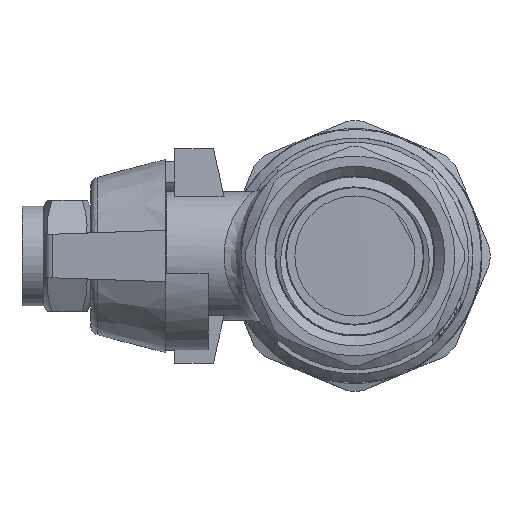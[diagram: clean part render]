
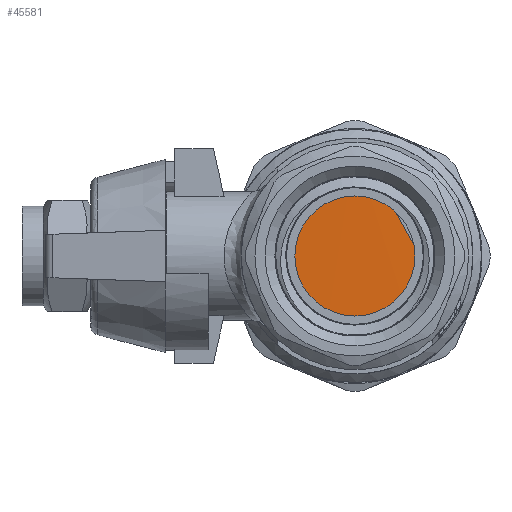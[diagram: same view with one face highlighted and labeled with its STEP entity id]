
A CAD part, left-side view. The second image highlights one B-rep face of the part: STEP entity #45581.
In plain terms, the highlighted cylindrical face has radius 12.5 mm (diameter 25 mm), a full revolution.
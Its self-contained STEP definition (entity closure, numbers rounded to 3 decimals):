
#1349=B_SPLINE_CURVE_WITH_KNOTS('',3,(#87386,#87387,#87388,#87389,#87390,
#87391,#87392,#87393,#87394,#87395,#87396,#87397,#87398,#87399,#87400,#87401,
#87402),.UNSPECIFIED.,.F.,.F.,(4,1,1,1,1,1,1,1,1,1,1,1,1,1,4),(18.85,
18.96,19.458,19.956,20.454,20.952,
21.45,21.948,22.446,22.944,23.442,
23.94,24.438,24.936,25.133),
 .UNSPECIFIED.);
#7465=FACE_OUTER_BOUND('',#10115,.T.);
#10115=EDGE_LOOP('',(#34935,#34936,#34937));
#13630=LINE('',#87267,#15999);
#13633=LINE('',#87385,#16002);
#15999=VECTOR('',#53796,12.5);
#16002=VECTOR('',#53809,12.5);
#19107=VERTEX_POINT('',#87265);
#19108=VERTEX_POINT('',#87266);
#19114=VERTEX_POINT('',#87384);
#24891=EDGE_CURVE('',#19107,#19108,#13630,.T.);
#24900=EDGE_CURVE('',#19114,#19108,#13633,.T.);
#24901=EDGE_CURVE('',#19114,#19107,#1349,.T.);
#34935=ORIENTED_EDGE('',*,*,#24891,.T.);
#34936=ORIENTED_EDGE('',*,*,#24900,.F.);
#34937=ORIENTED_EDGE('',*,*,#24901,.T.);
#44299=CYLINDRICAL_SURFACE('',#48689,12.5);
#45581=ADVANCED_FACE('',(#7465),#44299,.T.);
#48689=AXIS2_PLACEMENT_3D('',#87383,#53807,#53808);
#53796=DIRECTION('',(1.,0.,0.));
#53807=DIRECTION('center_axis',(1.,0.,0.));
#53808=DIRECTION('ref_axis',(0.,0.,1.));
#53809=DIRECTION('',(-1.,0.,0.));
#87265=CARTESIAN_POINT('',(-4.651,0.,-12.5));
#87266=CARTESIAN_POINT('',(-3.663,0.,-12.5));
#87267=CARTESIAN_POINT('',(-3.153,0.,-12.5));
#87383=CARTESIAN_POINT('Origin',(-3.153,0.,
0.));
#87384=CARTESIAN_POINT('',(-3.65,0.,-12.5));
#87385=CARTESIAN_POINT('',(-3.153,0.,-12.5));
#87386=CARTESIAN_POINT('Ctrl Pts',(-3.65,0.,
-12.5));
#87387=CARTESIAN_POINT('Ctrl Pts',(-3.656,-0.461,
-12.501));
#87388=CARTESIAN_POINT('Ctrl Pts',(-3.688,-2.997,-12.363));
#87389=CARTESIAN_POINT('Ctrl Pts',(-3.747,-7.449,
-10.689));
#87390=CARTESIAN_POINT('Ctrl Pts',(-3.827,-11.65,
-5.833));
#87391=CARTESIAN_POINT('Ctrl Pts',(-3.906,-13.021,
0.44));
#87392=CARTESIAN_POINT('Ctrl Pts',(-3.985,-11.229,
6.607));
#87393=CARTESIAN_POINT('Ctrl Pts',(-4.065,-6.709,11.168));
#87394=CARTESIAN_POINT('Ctrl Pts',(-4.144,-0.56,
13.017));
#87395=CARTESIAN_POINT('Ctrl Pts',(-4.223,5.726,11.703));
#87396=CARTESIAN_POINT('Ctrl Pts',(-4.303,10.621,7.546));
#87397=CARTESIAN_POINT('Ctrl Pts',(-4.382,12.935,1.557));
#87398=CARTESIAN_POINT('Ctrl Pts',(-4.461,12.108,-4.811));
#87399=CARTESIAN_POINT('Ctrl Pts',(-4.541,8.339,-10.01));
#87400=CARTESIAN_POINT('Ctrl Pts',(-4.604,3.713,-12.219));
#87401=CARTESIAN_POINT('Ctrl Pts',(-4.641,0.819,-12.5));
#87402=CARTESIAN_POINT('Ctrl Pts',(-4.651,0.,
-12.499));
